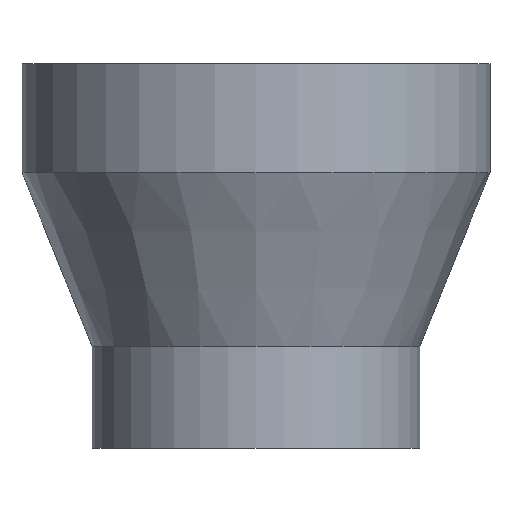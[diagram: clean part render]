
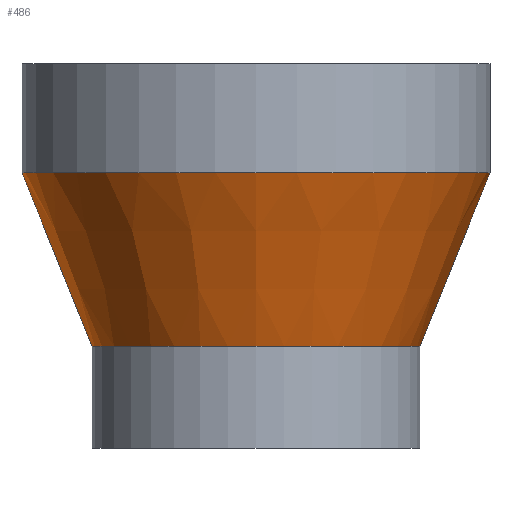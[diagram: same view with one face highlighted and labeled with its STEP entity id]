
A CAD part, front view. The second image highlights one B-rep face of the part: STEP entity #486.
In plain terms, the highlighted conical face has half-angle 22.008 degrees and reference radius 45 mm.
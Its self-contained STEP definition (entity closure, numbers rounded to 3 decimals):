
#2 = VECTOR ( 'NONE', #126, 1000. ) ;
#11 = AXIS2_PLACEMENT_3D ( 'NONE', #408, #409, #410 ) ;
#19 = DIRECTION ( 'NONE',  ( 1., 0., 0. ) ) ;
#23 = FACE_OUTER_BOUND ( 'NONE', #424, .T. ) ;
#24 = DIRECTION ( 'NONE',  ( 0., 0., 1. ) ) ;
#26 = CARTESIAN_POINT ( 'NONE',  ( 0., 0., 53. ) ) ;
#118 = LINE ( 'NONE', #125, #2 ) ;
#123 = CARTESIAN_POINT ( 'NONE',  ( 45., 0., 53. ) ) ;
#125 = CARTESIAN_POINT ( 'NONE',  ( -45., 0., 53. ) ) ;
#126 = DIRECTION ( 'NONE',  ( -0.375, 0., 0.927 ) ) ;
#128 = LINE ( 'NONE', #123, #473 ) ;
#132 = DIRECTION ( 'NONE',  ( 0.375, 0., 0.927 ) ) ;
#150 = CARTESIAN_POINT ( 'NONE',  ( -31.5, 0., 19.6 ) ) ;
#151 = CARTESIAN_POINT ( 'NONE',  ( 0., 0., 53. ) ) ;
#152 = DIRECTION ( 'NONE',  ( 0., 0., -1. ) ) ;
#153 = DIRECTION ( 'NONE',  ( 1., 0., 0. ) ) ;
#212 = EDGE_CURVE ( 'NONE', #422, #430, #118, .T. ) ;
#214 = EDGE_CURVE ( 'NONE', #432, #433, #128, .T. ) ;
#223 = EDGE_CURVE ( 'NONE', #433, #430, #271, .T. ) ;
#270 = CIRCLE ( 'NONE', #11, 31.5 ) ;
#271 = CIRCLE ( 'NONE', #282, 45. ) ;
#282 = AXIS2_PLACEMENT_3D ( 'NONE', #151, #152, #153 ) ;
#345 = CARTESIAN_POINT ( 'NONE',  ( -45., 0., 53. ) ) ;
#369 = ORIENTED_EDGE ( 'NONE', *, *, #212, .F. ) ;
#370 = ORIENTED_EDGE ( 'NONE', *, *, #475, .T. ) ;
#371 = ORIENTED_EDGE ( 'NONE', *, *, #214, .T. ) ;
#372 = ORIENTED_EDGE ( 'NONE', *, *, #223, .T. ) ;
#400 = CARTESIAN_POINT ( 'NONE',  ( 31.5, 0., 19.6 ) ) ;
#401 = CARTESIAN_POINT ( 'NONE',  ( 45., 0., 53. ) ) ;
#408 = CARTESIAN_POINT ( 'NONE',  ( 0., 0., 19.6 ) ) ;
#409 = DIRECTION ( 'NONE',  ( 0., 0., 1. ) ) ;
#410 = DIRECTION ( 'NONE',  ( 1., 0., 0. ) ) ;
#422 = VERTEX_POINT ( 'NONE', #150 ) ;
#424 = EDGE_LOOP ( 'NONE', ( #369, #370, #371, #372 ) ) ;
#430 = VERTEX_POINT ( 'NONE', #345 ) ;
#432 = VERTEX_POINT ( 'NONE', #400 ) ;
#433 = VERTEX_POINT ( 'NONE', #401 ) ;
#441 = CONICAL_SURFACE ( 'NONE', #442, 45., 0.384 ) ;
#442 = AXIS2_PLACEMENT_3D ( 'NONE', #26, #24, #19 ) ;
#473 = VECTOR ( 'NONE', #132, 1000. ) ;
#475 = EDGE_CURVE ( 'NONE', #422, #432, #270, .T. ) ;
#486 = ADVANCED_FACE ( 'NONE', ( #23 ), #441, .T. ) ;
